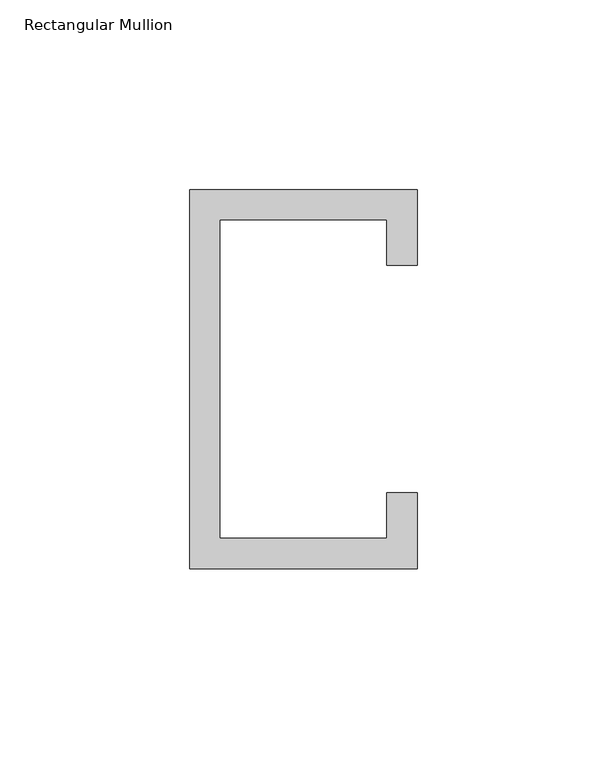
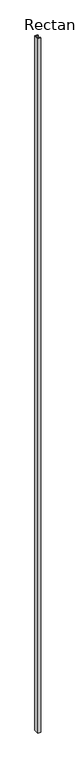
"""IFC4 building model written with IfcOpenShell, lengths in millimetres: member geometry, Rectangular Mullion : TERÇA METÁLICA 10CM."""

from ifc_helpers import new_model, si_unit, frame, origin, place, context, project, spatial, polyline, outline, extrude, source, transform, mapped, element, save


def rectangular_mullion_9b6f6b78(model_context):
    return source(origin(), model_context, "Body", "SweptSolid", [
        extrude(outline(polyline([(-60.0, 0.0), (0.0, 0.0), (0.0, -20.0), (-8.0, -20.0), (-8.0, -8.0), (-52.0, -8.0), (-52.0, -92.0), (-8.0, -92.0), (-8.0, -80.0), (0.0, -80.0), (0.0, -100.0), (-60.0, -100.0), (-60.0, 0.0)])), frame((0.0, 0.0, -14652.0975043), z_axis=(0.0, 0.0, 1.0), x_axis=(1.0, 0.0, 0.0)), (0.0, 0.0, 1.0), 14652.0975043),
    ])


if __name__ == "__main__":
    model = new_model("IFC4")
    model_context = context("Model", 3, world=origin())
    ifc_project = project(units=[si_unit("LENGTHUNIT", "METRE", prefix="MILLI")], contexts=[model_context])
    site = spatial("IfcSite", under=ifc_project)
    building = spatial("IfcBuilding", under=site)
    placement = place(None, origin())
    rectangular_mullion_shape = rectangular_mullion_9b6f6b78(model_context)
    element("IfcMember", 1, ObjectType="Rectangular Mullion : TERÇA METÁLICA 10CM", at=placement, inside=building, context=model_context, shape_type="MappedRepresentation", body=[
        mapped(rectangular_mullion_shape, transform((0.0, 0.0, 0.0), x_axis=(1.0, 0.0, 0.0), y_axis=(0.0, 1.0, 0.0), z_axis=(0.0, 0.0, 1.0))),
    ])
    save(model, "model.ifc")
